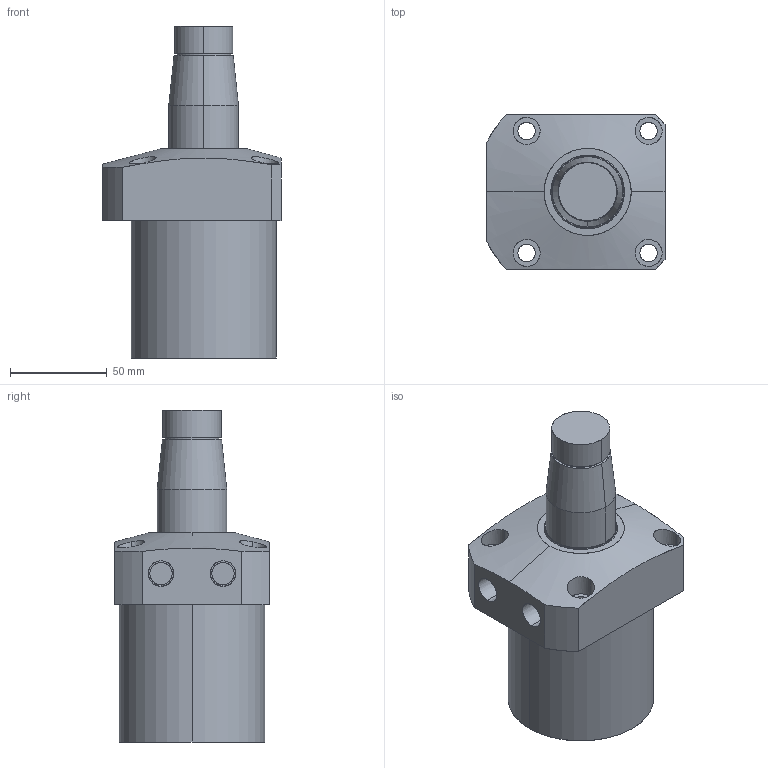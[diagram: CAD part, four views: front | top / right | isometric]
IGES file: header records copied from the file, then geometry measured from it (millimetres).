
Start section: SolidWorks IGES file using analytic representation for surfaces
Global section: file name: E:\karthik\CLASYS\Pneumatic Swing cylinders\Top mount cyl 0311\75\0311-0751.IGS; native system: SolidWorks 2010; preprocessor: SolidWorks 2010; author: karthik; date: 130916.101016; units: millimetre
Bounding box: 92 x 80 x 171.5 mm (x, y, z)
Surface area: 55578.3 mm2 (no closed solid volume)
Topology: 0 solids, 0 shells, 89 faces, 2683 edges, 2683 vertices
Faces by surface type: revolution 62, bspline 27
